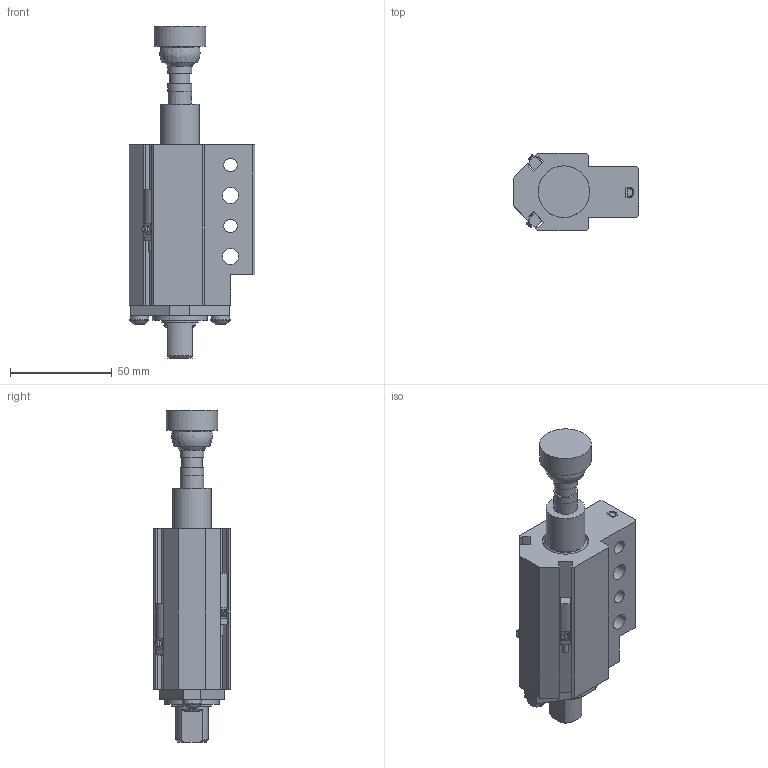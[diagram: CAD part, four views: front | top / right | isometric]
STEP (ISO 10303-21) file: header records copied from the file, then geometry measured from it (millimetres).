
FILE_DESCRIPTION(/* description */ ('MINI PASS THRU GROUND BLOCK'),/* implementation_level */ '2;1');
FILE_NAME(/* name */ 'C:\Vault Workspace\CAD\Welker\Cylinders\GBM\GBMDDL3.stp',/* time_stamp */ '2021-06-25T07:38:20-04:00',/* author */ ('KPL'),/* organization */ (''),/* preprocessor_version */ 'ST-DEVELOPER v18.1',/* originating_system */ 'Autodesk Inventor 2020',/* authorisation */ '');
FILE_SCHEMA (('AUTOMOTIVE_DESIGN { 1 0 10303 214 3 1 1 }'));
Products named in the file (11): GBML01; 91590A126; 96100A152; L3 Sensor 1; M5X0.8-10 BHCS; NL5; GBME01D; GBME02; GBME04; SN-148; AN-05U2145
Assembly tree (13 placements, depth 2):
  GBML01
    91590A126
    96100A152
    L3 Sensor 1  x2
    M5X0.8-10 BHCS  x2
    NL5  x2
    GBME01D
    GBME02
    GBME04
    SN-148
    AN-05U2145
Bounding box: 62 x 38.1 x 163.5 mm (x, y, z)
Volume: 136360.3 mm3; surface area: 49773.3 mm2
Topology: 13 solids, 13 shells, 440 faces, 1207 edges, 808 vertices
Faces by surface type: plane 307, cylinder 97, cone 18, bspline 10, torus 4, sphere 4
Full cylindrical faces by diameter (mm): 1.194 x2, 2.9 x2, 4.134 x2, 5 x2, 5.4 x2, 5.5 x2, 6.647 x3, 8 x2, 9 x2, 9.5 x2, 10 x1, 11.76 x2, 14.935 x1, 15.875 x3, 16.383 x1, 19.05 x1, 19.177 x1, 22.225 x2, 22.784 x1, 24.613 x1, 25.4 x1, 25.654 x1, 25.705 x1, 26.987 x1, 28.591 x1, 28.667 x1
Entity records: 10130 total; most frequent: CARTESIAN_POINT 1860, DIRECTION 1645, ORIENTED_EDGE 1594, EDGE_CURVE 797, AXIS2_PLACEMENT_3D 568, VERTEX_POINT 545, LINE 509, VECTOR 509
